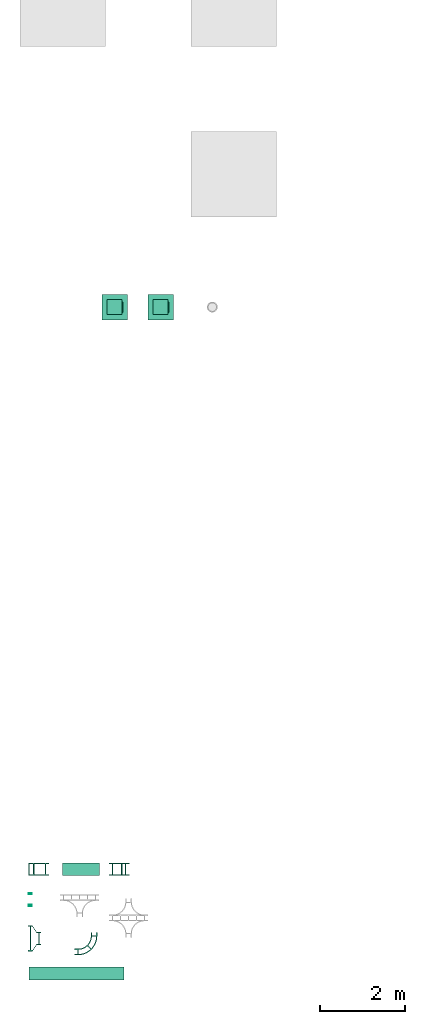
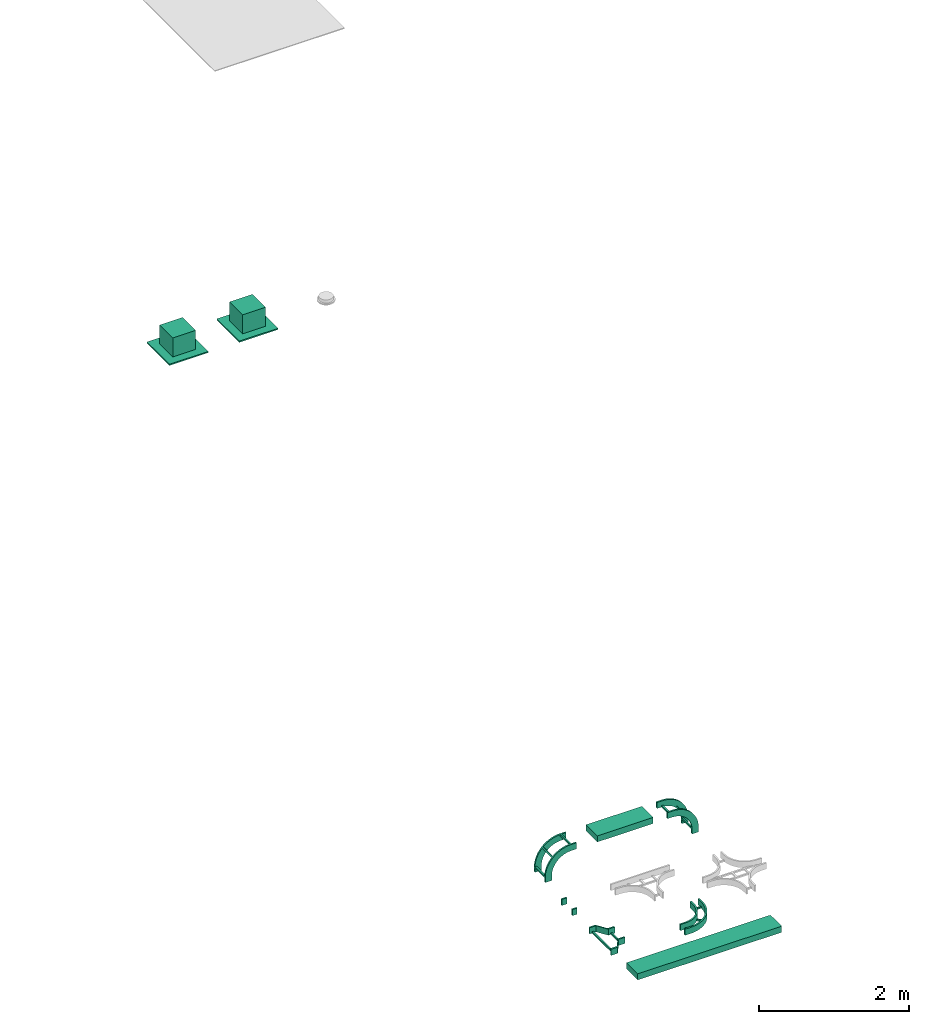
# One storey, part 8 of 11: 7 flow fittings, 2 flow terminals.
"""IFC2X3 building model written with IfcOpenShell, lengths in millimetres."""

from ifc_helpers import new_model, entity, si_unit, converted_unit, derived_unit, direction, frame, frame_2d, origin, origin_2d_with_axis, place, context, subcontext, project, spatial, polyline, circle_curve, parameter, trimmed, segment, composite_curve, rectangle, circle, outline, extrude, source, transform, mapped, type_object, type_shapes, element, save


model = new_model("IFC2X3")

# Units and contexts
model_context = context("Model", 3, precision=0.01, world=origin(), true_north=direction((6.12303176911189e-17, 1.0)))
body_context = subcontext(model_context, "Body", "Model", "MODEL_VIEW")
ifc_project = project(units=[si_unit("LENGTHUNIT", "METRE", prefix="MILLI"), si_unit("AREAUNIT", "SQUARE_METRE"), si_unit("VOLUMEUNIT", "CUBIC_METRE"), converted_unit("PLANEANGLEUNIT", "DEGREE", entity("IfcRatioMeasure", 0.0174532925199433), si_unit("PLANEANGLEUNIT", "RADIAN"), dimensions=[0, 0, 0, 0, 0, 0, 0]), si_unit("MASSUNIT", "GRAM", prefix="KILO"), si_unit("TIMEUNIT", "SECOND"), si_unit("FREQUENCYUNIT", "HERTZ"), si_unit("THERMODYNAMICTEMPERATUREUNIT", "KELVIN"), derived_unit("THERMALTRANSMITTANCEUNIT", [(si_unit("MASSUNIT", "GRAM", prefix="KILO"), 1), (si_unit("THERMODYNAMICTEMPERATUREUNIT", "KELVIN"), -1), (si_unit("TIMEUNIT", "SECOND"), -3)]), derived_unit("VOLUMETRICFLOWRATEUNIT", [(si_unit("LENGTHUNIT", "METRE"), 3), (si_unit("TIMEUNIT", "SECOND"), -1)]), si_unit("ELECTRICCURRENTUNIT", "AMPERE"), si_unit("ELECTRICVOLTAGEUNIT", "VOLT"), si_unit("POWERUNIT", "WATT")], contexts=[model_context])

# Site, building, storey
site_placement = place(None, origin())
site = spatial("IfcSite", under=ifc_project, at=site_placement, Name="Surface:5707", CompositionType="ELEMENT")
building_placement = place(site_placement, origin())
building = spatial("IfcBuilding", under=site, at=building_placement, CompositionType="ELEMENT")
storey_placement = place(building_placement, origin())
storey = spatial("IfcBuildingStorey", under=building, at=storey_placement, Name="00_begane grond", CompositionType="ELEMENT", Elevation=0.0)

# Flow terminals
air_terminal_type_1 = type_object("IfcAirTerminalType", Name="afvoer_plafondrooster_kanaaldiameter_250 : 57_AT_plafondrooster_afv_rond_kanaal_FB:afvoer_plafondrooster_kanaaldiameter_250", PredefinedType="NOTDEFINED")
shared_shape_1 = source(origin(), body_context, "Body", "SweptSolid", [
    extrude(rectangle(XDim=599.999999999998, YDim=599.999999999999, at=frame_2d((2.1600499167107e-12, 0.0), x_axis=(1.0, 0.0))), frame((300.0, 300.0, 0.0), z_axis=(0.0, 0.0, 1.0), x_axis=(0.0, -1.0, 0.0)), (0.0, 0.0, 1.0), 19.9999999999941),
    extrude(rectangle(XDim=349.999999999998, YDim=350.0, at=frame_2d((4.33431068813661e-12, 0.0), x_axis=(1.0, 0.0))), frame((300.0, 300.0, 20.0), z_axis=(0.0, 0.0, 1.0), x_axis=(0.0, -1.0, 0.0)), (0.0, 0.0, 1.0), 310.000000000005),
    extrude(circle(Radius=125.0, at=frame_2d((0.0, -2.03037586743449e-13), x_axis=(1.0, 0.0))), frame((475.0, 300.0, 175.0), z_axis=(1.0, 0.0, 0.0), x_axis=(0.0, 1.0, 0.0)), (0.0, 0.0, 1.0), 20.0000000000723),
])
type_shapes(air_terminal_type_1, [shared_shape_1])
flow_terminal_1_placement = place(storey_placement, frame((1913.50653893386, -31670.8951915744, 0.0)))
element("IfcFlowTerminal", 1, at=flow_terminal_1_placement, inside=storey, type_object=air_terminal_type_1, Name="57_AT_plafondrooster_afv_rond_kanaal_FB:afvoer_plafondrooster_kanaaldiameter_250:afvoer_plafondrooster_kanaaldiameter_250 : 57_AT_plafondrooster_afv_rond_kanaal_FB:afvoer_plafondrooster_kanaaldiameter_250:2126", ObjectType="afvoer_plafondrooster_kanaaldiameter_250 : 57_AT_plafondrooster_afv_rond_kanaal_FB:afvoer_plafondrooster_kanaaldiameter_250", context=body_context, shape_type="MappedRepresentation", body=[
    mapped(shared_shape_1, transform((0.0, 0.0, 0.0), scale=1.0)),
])
air_terminal_type_2 = type_object("IfcAirTerminalType", Name="aanvoer_plafondrooster_kanaaldiameter_250 : 57_AT_plafondrooster_toev_rond_kanaal_FB:aanvoer_plafondrooster_kanaaldiameter_250", PredefinedType="NOTDEFINED")
shared_shape_2 = source(origin(), body_context, "Body", "SweptSolid", [
    extrude(rectangle(XDim=599.999999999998, YDim=600.0, at=frame_2d((2.1600499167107e-12, 2.55795384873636e-13), x_axis=(1.0, 0.0))), frame((300.0, 300.0, 0.0), z_axis=(0.0, 0.0, 1.0), x_axis=(0.0, -1.0, 0.0)), (0.0, 0.0, 1.0), 19.9999999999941),
    extrude(rectangle(XDim=349.999999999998, YDim=350.0, at=frame_2d((4.33431068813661e-12, 2.70006239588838e-13), x_axis=(1.0, 0.0))), frame((300.0, 300.0, 20.0), z_axis=(0.0, 0.0, 1.0), x_axis=(0.0, -1.0, 0.0)), (0.0, 0.0, 1.0), 310.000000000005),
    extrude(circle(Radius=125.0, at=frame_2d((0.0, -2.03037586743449e-13), x_axis=(1.0, 0.0))), frame((475.0, 300.0, 175.0), z_axis=(1.0, 0.0, 0.0), x_axis=(0.0, 1.0, 0.0)), (0.0, 0.0, 1.0), 20.0000000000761),
])
type_shapes(air_terminal_type_2, [shared_shape_2])
flow_terminal_2_placement = place(storey_placement, frame((2990.0226862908, -31670.8951915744, 0.0)))
element("IfcFlowTerminal", 2, at=flow_terminal_2_placement, inside=storey, type_object=air_terminal_type_2, Name="57_AT_plafondrooster_toev_rond_kanaal_FB:aanvoer_plafondrooster_kanaaldiameter_250:aanvoer_plafondrooster_kanaaldiameter_250 : 57_AT_plafondrooster_toev_rond_kanaal_FB:aanvoer_plafondrooster_kanaaldiameter_250:2163", ObjectType="aanvoer_plafondrooster_kanaaldiameter_250 : 57_AT_plafondrooster_toev_rond_kanaal_FB:aanvoer_plafondrooster_kanaaldiameter_250", context=body_context, shape_type="MappedRepresentation", body=[
    mapped(shared_shape_2, transform((0.0, 0.0, 0.0), scale=1.0)),
])

# Flow fittings
cable_carrier_fitting_type_1 = type_object("IfcCableCarrierFittingType", Name="61_CT_kabelgoot_open : Cable Tray with Fittings:61_CT_kabelgoot_open", PredefinedType="NOTDEFINED")
shared_shape_3 = source(origin(), body_context, "Body", "SweptSolid", [
    extrude(rectangle(XDim=300.000000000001, YDim=860.0, at=origin_2d_with_axis()), frame((430.0, 150.0, 0.0), z_axis=(0.0, 0.0, 1.0), x_axis=(0.0, 1.0, 0.0)), (0.0, 0.0, 1.0), 100.0),
])
type_shapes(cable_carrier_fitting_type_1, [shared_shape_3])
flow_fitting_1_placement = place(storey_placement, frame((1000.0, -44678.0962466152, 442.420381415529)))
element("IfcFlowFitting", 3, at=flow_fitting_1_placement, inside=storey, type_object=cable_carrier_fitting_type_1, Name="Cable Tray with Fittings:61_CT_kabelgoot_open:61_CT_kabelgoot_open : Cable Tray with Fittings:61_CT_kabelgoot_open:4527", ObjectType="61_CT_kabelgoot_open : Cable Tray with Fittings:61_CT_kabelgoot_open", context=body_context, shape_type="MappedRepresentation", body=[
    mapped(shared_shape_3, transform((0.0, 0.0, 0.0), scale=1.0)),
])
cable_carrier_fitting_type_2 = type_object("IfcCableCarrierFittingType", Name="bocht verticaal buiten, standaard : 61_CTF_kabelgoot_open_bocht_verticaal_buiten:bocht verticaal buiten, standaard", PredefinedType="NOTDEFINED")
shared_shape_4 = source(origin(), body_context, "Body", "SweptSolid", [
    extrude(outline(composite_curve([segment(polyline([(145.0, -235.0), (245.0, -235.0)]), True, "CONTINUOUS"), segment(polyline([(245.0, -235.0), (245.0, -155.0)]), True, "CONTINUOUS"), segment(trimmed(circle_curve(frame_2d((-155.0, -155.0), x_axis=(1.0, 0.0)), 400.0), [parameter(4.07110999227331e-13)], [parameter(90.0000000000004)], True, "PARAMETER"), True, "CONTINUOUS"), segment(polyline([(-155.0, 245.0), (-235.0, 245.0)]), True, "CONTINUOUS"), segment(polyline([(-235.0, 245.0), (-235.0, 145.0)]), True, "CONTINUOUS"), segment(polyline([(-235.0, 145.0), (-155.0, 145.0)]), True, "CONTINUOUS"), segment(trimmed(circle_curve(frame_2d((-155.0, -155.0), x_axis=(1.0, 0.0)), 300.0), [parameter(0.0)], [parameter(90.0000000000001)], True, "PARAMETER"), False, "CONTINUOUS"), segment(polyline([(145.0, -155.0), (145.0, -235.0)]), True, "CONTINUOUS")], self_intersect=False)), frame((235.0, 0.0, 235.0), z_axis=(0.0, 1.0, 0.0), x_axis=(0.0, 0.0, 1.0)), (0.0, 0.0, 1.0), 25.3999999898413),
    extrude(outline(composite_curve([segment(polyline([(145.0, -235.0), (245.0, -235.0)]), True, "CONTINUOUS"), segment(polyline([(245.0, -235.0), (245.0, -155.0)]), True, "CONTINUOUS"), segment(trimmed(circle_curve(frame_2d((-155.0, -155.0), x_axis=(1.0, 0.0)), 400.0), [parameter(4.07110999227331e-13)], [parameter(90.0000000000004)], True, "PARAMETER"), True, "CONTINUOUS"), segment(polyline([(-155.0, 245.0), (-235.0, 245.0)]), True, "CONTINUOUS"), segment(polyline([(-235.0, 245.0), (-235.0, 145.0)]), True, "CONTINUOUS"), segment(polyline([(-235.0, 145.0), (-155.0, 145.0)]), True, "CONTINUOUS"), segment(trimmed(circle_curve(frame_2d((-155.0, -155.0), x_axis=(1.0, 0.0)), 300.0), [parameter(0.0)], [parameter(90.0000000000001)], True, "PARAMETER"), False, "CONTINUOUS"), segment(polyline([(145.0, -155.0), (145.0, -235.0)]), True, "CONTINUOUS")], self_intersect=False)), frame((235.0, 274.600000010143, 235.0), z_axis=(0.0, 1.0, 0.0), x_axis=(0.0, 0.0, 1.0)), (0.0, 0.0, 1.0), 25.3999999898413),
    extrude(rectangle(XDim=249.200000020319, YDim=25.3999999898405, at=frame_2d((0.0, -1.35891298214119e-13), x_axis=(1.0, 0.0))), frame((80.0, 150.0, 380.0), z_axis=(0.0, 0.0, 1.0), x_axis=(0.0, 1.0, 0.0)), (0.0, 0.0, 1.0), 25.3999999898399),
    extrude(rectangle(XDim=25.3999999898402, YDim=25.3999999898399, at=frame_2d((-9.59232693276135e-14, -9.50350909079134e-14), x_axis=(0.0, 1.0))), frame((301.11229047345, 25.3999999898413, 301.112290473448), z_axis=(0.0, 1.0, 0.0), x_axis=(-0.70710678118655, 0.0, -0.707106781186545)), (0.0, 0.0, 1.0), 249.200000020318),
    extrude(rectangle(XDim=249.200000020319, YDim=25.3999999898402, at=origin_2d_with_axis()), frame((392.699999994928, 150.0, 67.30000000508), z_axis=(0.0, 0.0, 1.0), x_axis=(0.0, 1.0, 0.0)), (0.0, 0.0, 1.0), 25.39999998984),
])
type_shapes(cable_carrier_fitting_type_2, [shared_shape_4])
flow_fitting_2_placement = place(storey_placement, frame((2080.14957118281, -44678.0962466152, 62.420381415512)))
element("IfcFlowFitting", 4, at=flow_fitting_2_placement, inside=storey, type_object=cable_carrier_fitting_type_2, Name="61_CTF_kabelgoot_open_bocht_verticaal_buiten:bocht verticaal buiten, standaard:bocht verticaal buiten, standaard : 61_CTF_kabelgoot_open_bocht_verticaal_buiten:bocht verticaal buiten, standaard:4542", ObjectType="bocht verticaal buiten, standaard : 61_CTF_kabelgoot_open_bocht_verticaal_buiten:bocht verticaal buiten, standaard", context=body_context, shape_type="MappedRepresentation", body=[
    mapped(shared_shape_4, transform((0.0, 0.0, 0.0), scale=1.0)),
])
cable_carrier_fitting_type_3 = type_object("IfcCableCarrierFittingType", Name="bocht verticaal binnen, standaard : 61_CTF_kabelgoot_open_bocht_verticaal_binnen:bocht verticaal binnen, standaard", PredefinedType="NOTDEFINED")
shared_shape_5 = source(origin(), body_context, "Body", "SweptSolid", [
    extrude(outline(composite_curve([segment(polyline([(-235.0, -145.0), (-235.0, -245.0)]), True, "CONTINUOUS"), segment(polyline([(-235.0, -245.0), (-155.0, -245.0)]), True, "CONTINUOUS"), segment(trimmed(circle_curve(frame_2d((-155.0, 155.0), x_axis=(0.0, -1.0)), 400.0), [parameter(3.56222124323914e-13)], [parameter(90.0000000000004)], True, "PARAMETER"), True, "CONTINUOUS"), segment(polyline([(245.0, 155.0), (245.0, 235.0)]), True, "CONTINUOUS"), segment(polyline([(245.0, 235.0), (145.0, 235.0)]), True, "CONTINUOUS"), segment(polyline([(145.0, 235.0), (145.0, 155.0)]), True, "CONTINUOUS"), segment(trimmed(circle_curve(frame_2d((-155.0, 155.0), x_axis=(0.0, -1.0)), 300.0), [parameter(0.0)], [parameter(90.0000000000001)], True, "PARAMETER"), False, "CONTINUOUS"), segment(polyline([(-155.0, -145.0), (-235.0, -145.0)]), True, "CONTINUOUS")], self_intersect=False)), frame((246.595272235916, 274.600000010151, 235.0), z_axis=(0.0, -1.0, 0.0), x_axis=(-1.0, 0.0, 0.0)), (0.0, 0.0, -1.0), 25.3999999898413),
    extrude(outline(composite_curve([segment(polyline([(-235.0, -145.0), (-235.0, -245.0)]), True, "CONTINUOUS"), segment(polyline([(-235.0, -245.0), (-155.0, -245.0)]), True, "CONTINUOUS"), segment(trimmed(circle_curve(frame_2d((-155.0, 155.0), x_axis=(0.0, -1.0)), 400.0), [parameter(3.56222124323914e-13)], [parameter(90.0000000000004)], True, "PARAMETER"), True, "CONTINUOUS"), segment(polyline([(245.0, 155.0), (245.0, 235.0)]), True, "CONTINUOUS"), segment(polyline([(245.0, 235.0), (145.0, 235.0)]), True, "CONTINUOUS"), segment(polyline([(145.0, 235.0), (145.0, 155.0)]), True, "CONTINUOUS"), segment(trimmed(circle_curve(frame_2d((-155.0, 155.0), x_axis=(0.0, -1.0)), 300.0), [parameter(0.0)], [parameter(90.0000000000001)], True, "PARAMETER"), False, "CONTINUOUS"), segment(polyline([(-155.0, -145.0), (-235.0, -145.0)]), True, "CONTINUOUS")], self_intersect=False)), frame((246.595272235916, 0.0, 235.0), z_axis=(0.0, -1.0, 0.0), x_axis=(-1.0, 0.0, 0.0)), (0.0, 0.0, -1.0), 25.3999999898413),
    extrude(rectangle(XDim=249.200000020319, YDim=25.39999998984, at=origin_2d_with_axis()), frame((401.595272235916, 150.0, 454.600000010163), z_axis=(0.0, 0.0, 1.0), x_axis=(0.0, -1.0, 0.0)), (0.0, 0.0, 1.0), 25.3999999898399),
    extrude(rectangle(XDim=25.39999998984, YDim=25.3999999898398, at=frame_2d((-8.88178419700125e-16, 4.88498130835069e-14), x_axis=(1.0, 0.0))), frame((127.732815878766, 25.3999999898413, 353.862456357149), z_axis=(0.0, 1.0, 0.0), x_axis=(0.707106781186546, 0.0, 0.707106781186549)), (0.0, 0.0, 1.0), 249.200000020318),
    extrude(rectangle(XDim=249.200000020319, YDim=25.3999999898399, at=origin_2d_with_axis()), frame((14.2952722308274, 150.0, 67.30000000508), z_axis=(0.0, 0.0, 1.0), x_axis=(0.0, -1.0, 0.0)), (0.0, 0.0, 1.0), 25.39999998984),
])
type_shapes(cable_carrier_fitting_type_3, [shared_shape_5])
flow_fitting_3_placement = place(storey_placement, frame((195.865871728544, -44678.0962466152, 62.420381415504)))
element("IfcFlowFitting", 5, at=flow_fitting_3_placement, inside=storey, type_object=cable_carrier_fitting_type_3, Name="61_CTF_kabelgoot_open_bocht_verticaal_binnen:bocht verticaal binnen, standaard:bocht verticaal binnen, standaard : 61_CTF_kabelgoot_open_bocht_verticaal_binnen:bocht verticaal binnen, standaard:4600", ObjectType="bocht verticaal binnen, standaard : 61_CTF_kabelgoot_open_bocht_verticaal_binnen:bocht verticaal binnen, standaard", context=body_context, shape_type="MappedRepresentation", body=[
    mapped(shared_shape_5, transform((0.0, 0.0, 0.0), scale=1.0)),
])
cable_carrier_fitting_type_4 = type_object("IfcCableCarrierFittingType", Name="verbindingsstuk, standaard : 61_CTF_kabelgoot_open_verbinding:verbindingsstuk, standaard", PredefinedType="NOTDEFINED")
shared_shape_6 = source(origin(), body_context, "Body", "SweptSolid", [
    extrude(rectangle(XDim=25.000000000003, YDim=75.000000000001, at=frame_2d((4.33164615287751e-12, 0.0), x_axis=(1.0, 0.0))), frame((37.5000000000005, 12.5000000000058, 0.0), z_axis=(0.0, 0.0, 1.0), x_axis=(0.0, 1.0, 0.0)), (0.0, 0.0, 1.0), 100.0),
    extrude(rectangle(XDim=24.9999999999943, YDim=75.000000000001, at=origin_2d_with_axis()), frame((37.5000000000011, 287.500000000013, 0.0), z_axis=(0.0, 0.0, 1.0), x_axis=(0.0, 1.0, 0.0)), (0.0, 0.0, 1.0), 100.0),
])
type_shapes(cable_carrier_fitting_type_4, [shared_shape_6])
flow_fitting_4_placement = place(storey_placement, frame((204.208115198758, -45388.8426915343, -50.0)))
element("IfcFlowFitting", 6, at=flow_fitting_4_placement, inside=storey, type_object=cable_carrier_fitting_type_4, Name="61_CTF_kabelgoot_open_verbinding:verbindingsstuk, standaard:verbindingsstuk, standaard : 61_CTF_kabelgoot_open_verbinding:verbindingsstuk, standaard:4650", ObjectType="verbindingsstuk, standaard : 61_CTF_kabelgoot_open_verbinding:verbindingsstuk, standaard", context=body_context, shape_type="MappedRepresentation", body=[
    mapped(shared_shape_6, transform((0.0, 0.0, 0.0), scale=1.0)),
])
cable_carrier_fitting_type_5 = type_object("IfcCableCarrierFittingType", Name="verloopstuk, standaard : 61_CTF_kabelgoot_open_verloop:verloopstuk, standaard", PredefinedType="NOTDEFINED")
shared_shape_7 = source(origin(), body_context, "Body", "SweptSolid", [
    extrude(rectangle(XDim=25.0, YDim=549.999999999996, at=origin_2d_with_axis()), frame((50.0, 300.0, 0.0)), (0.0, 0.0, 1.0), 24.9999999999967),
    extrude(rectangle(XDim=25.0, YDim=250.000000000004, at=frame_2d((0.0, 4.33431068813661e-12), x_axis=(1.0, 0.0))), frame((250.0, 300.0, 0.0)), (0.0, 0.0, 1.0), 24.9999999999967),
    extrude(outline(polyline([(-100.539410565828, 6.93375245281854), (-156.009430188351, -76.2712769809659), (-135.208172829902, -90.1387818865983), (-79.7381532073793, -6.93375245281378), (100.539410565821, -6.93375245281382), (156.009430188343, 76.2712769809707), (135.208172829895, 90.138781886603), (79.738153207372, 6.93375245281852), (-100.539410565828, 6.93375245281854)])), frame((150.0, 87.5000000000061, 0.0), z_axis=(0.0, 0.0, -1.0), x_axis=(0.554700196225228, 0.832050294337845, 0.0)), (0.0, 0.0, -1.0), 100.0),
    extrude(outline(polyline([(-79.7381532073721, -6.93375245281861), (100.539410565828, -6.9337524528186), (156.009430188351, 76.2712769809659), (135.208172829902, 90.1387818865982), (79.7381532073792, 6.93375245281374), (-100.539410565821, 6.93375245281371), (-156.009430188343, -76.2712769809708), (-135.208172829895, -90.1387818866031), (-79.7381532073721, -6.93375245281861)])), frame((150.0, 512.500000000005, 0.0), z_axis=(0.0, 0.0, 1.0), x_axis=(0.554700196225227, -0.832050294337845, 0.0)), (0.0, 0.0, 1.0), 100.0),
])
type_shapes(cable_carrier_fitting_type_5, [shared_shape_7])
flow_fitting_5_placement = place(storey_placement, frame((192.388586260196, -46447.5301990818, -50.0)))
element("IfcFlowFitting", 7, at=flow_fitting_5_placement, inside=storey, type_object=cable_carrier_fitting_type_5, Name="61_CTF_kabelgoot_open_verloop:verloopstuk, standaard:verloopstuk, standaard : 61_CTF_kabelgoot_open_verloop:verloopstuk, standaard:4671", ObjectType="verloopstuk, standaard : 61_CTF_kabelgoot_open_verloop:verloopstuk, standaard", context=body_context, shape_type="MappedRepresentation", body=[
    mapped(shared_shape_7, transform((0.0, 0.0, 0.0), scale=1.0)),
])
cable_carrier_fitting_type_6 = type_object("IfcCableCarrierFittingType", Name="61_CT_kabelgoot_open : Cable Tray without Fittings:61_CT_kabelgoot_open", PredefinedType="NOTDEFINED")
shared_shape_8 = source(origin(), body_context, "Body", "SweptSolid", [
    extrude(rectangle(XDim=300.000000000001, YDim=2220.0, at=frame_2d((0.0, 1.13686837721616e-13), x_axis=(1.0, 0.0))), frame((1110.0, 150.0, 0.0), z_axis=(0.0, 0.0, 1.0), x_axis=(0.0, 1.0, 0.0)), (0.0, 0.0, 1.0), 100.0),
])
type_shapes(cable_carrier_fitting_type_6, [shared_shape_8])
flow_fitting_6_placement = place(storey_placement, frame((212.53410884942, -47119.2189369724, -50.0)))
element("IfcFlowFitting", 8, at=flow_fitting_6_placement, inside=storey, type_object=cable_carrier_fitting_type_6, Name="Cable Tray without Fittings:61_CT_kabelgoot_open:61_CT_kabelgoot_open : Cable Tray without Fittings:61_CT_kabelgoot_open:4714", ObjectType="61_CT_kabelgoot_open : Cable Tray without Fittings:61_CT_kabelgoot_open", context=body_context, shape_type="MappedRepresentation", body=[
    mapped(shared_shape_8, transform((0.0, 0.0, 0.0), scale=1.0)),
])
cable_carrier_fitting_type_7 = type_object("IfcCableCarrierFittingType", Name="bocht, standaard : 61_CTF_kabelgoot_open_bocht_horizontaal:bocht, standaard", PredefinedType="NOTDEFINED")
shared_shape_9 = source(origin(), body_context, "Body", "SweptSolid", [
    extrude(outline(composite_curve([segment(trimmed(circle_curve(frame_2d((-198.750000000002, -198.749999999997), x_axis=(1.0, 0.0)), 450.0), [parameter(0.0)], [parameter(89.9999999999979)], True, "PARAMETER"), True, "CONTINUOUS"), segment(polyline([(-198.749999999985, 251.250000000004), (-278.749999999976, 251.250000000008)]), True, "CONTINUOUS"), segment(polyline([(-278.749999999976, 251.250000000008), (-278.749999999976, 226.250000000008)]), True, "CONTINUOUS"), segment(polyline([(-278.749999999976, 226.250000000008), (-198.749999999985, 226.250000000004)]), True, "CONTINUOUS"), segment(trimmed(circle_curve(frame_2d((-198.750000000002, -198.749999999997), x_axis=(1.0, 0.0)), 425.0), [parameter(3.56222124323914e-13)], [parameter(89.9999999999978)], True, "PARAMETER"), False, "CONTINUOUS"), segment(polyline([(226.249999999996, -198.749999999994), (226.249999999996, -278.750000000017)]), True, "CONTINUOUS"), segment(polyline([(226.249999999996, -278.750000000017), (251.249999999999, -278.750000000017)]), True, "CONTINUOUS"), segment(polyline([(251.249999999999, -278.750000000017), (251.249999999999, -198.749999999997)]), True, "CONTINUOUS")], self_intersect=False)), frame((278.750000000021, 252.845272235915, 0.0), z_axis=(0.0, 0.0, 1.0), x_axis=(0.0, -1.0, 0.0)), (0.0, 0.0, 1.0), 100.0),
    extrude(outline(composite_curve([segment(trimmed(circle_curve(frame_2d((-136.249999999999, -136.249999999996), x_axis=(1.0, 0.0)), 325.0), [parameter(0.0)], [parameter(89.999999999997)], True, "PARAMETER"), True, "CONTINUOUS"), segment(polyline([(-136.249999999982, 188.750000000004), (-216.249999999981, 188.750000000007)]), True, "CONTINUOUS"), segment(polyline([(-216.249999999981, 188.750000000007), (-216.249999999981, 163.750000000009)]), True, "CONTINUOUS"), segment(polyline([(-216.249999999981, 163.750000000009), (-136.249999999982, 163.750000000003)]), True, "CONTINUOUS"), segment(trimmed(circle_curve(frame_2d((-136.249999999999, -136.249999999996), x_axis=(1.0, 0.0)), 300.0), [parameter(3.56222124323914e-13)], [parameter(89.9999999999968)], True, "PARAMETER"), False, "CONTINUOUS"), segment(polyline([(163.750000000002, -136.249999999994), (163.749999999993, -216.250000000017)]), True, "CONTINUOUS"), segment(polyline([(163.749999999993, -216.250000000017), (188.749999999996, -216.250000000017)]), True, "CONTINUOUS"), segment(polyline([(188.749999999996, -216.250000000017), (188.749999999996, -136.249999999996)]), True, "CONTINUOUS")], self_intersect=False)), frame((216.250000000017, 315.34527223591, 0.0), z_axis=(0.0, 0.0, 1.0), x_axis=(0.0, -1.0, 0.0)), (0.0, 0.0, 1.0), 100.0),
    extrude(rectangle(XDim=24.9999999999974, YDim=100.000000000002, at=frame_2d((-9.50350909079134e-14, 9.9475983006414e-14), x_axis=(1.0, 0.0))), frame((345.165042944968, 186.430229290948, 0.0), z_axis=(0.0, 0.0, 1.0), x_axis=(0.707106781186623, 0.707106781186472, 0.0)), (0.0, 0.0, 1.0), 24.9999999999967),
    extrude(rectangle(XDim=25.0, YDim=100.000000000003, at=frame_2d((1.35891298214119e-13, 4.33431068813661e-12), x_axis=(1.0, 0.0))), frame((80.0, 76.5952722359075, 0.0)), (0.0, 0.0, 1.0), 24.9999999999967),
    extrude(rectangle(XDim=24.9999999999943, YDim=100.0, at=origin_2d_with_axis()), frame((455.0, 451.595272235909, 0.0), z_axis=(0.0, 0.0, 1.0), x_axis=(0.0, 1.0, 0.0)), (0.0, 0.0, 1.0), 24.9999999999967),
])
type_shapes(cable_carrier_fitting_type_7, [shared_shape_9])
flow_fitting_7_placement = place(storey_placement, frame((1278.52885663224, -46538.8721847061, -50.0)))
element("IfcFlowFitting", 9, at=flow_fitting_7_placement, inside=storey, type_object=cable_carrier_fitting_type_7, Name="61_CTF_kabelgoot_open_bocht_horizontaal:bocht, standaard:bocht, standaard : 61_CTF_kabelgoot_open_bocht_horizontaal:bocht, standaard:4728", ObjectType="bocht, standaard : 61_CTF_kabelgoot_open_bocht_horizontaal:bocht, standaard", context=body_context, shape_type="MappedRepresentation", body=[
    mapped(shared_shape_9, transform((0.0, 0.0, 0.0), scale=1.0)),
])

save(model, "model.ifc")
